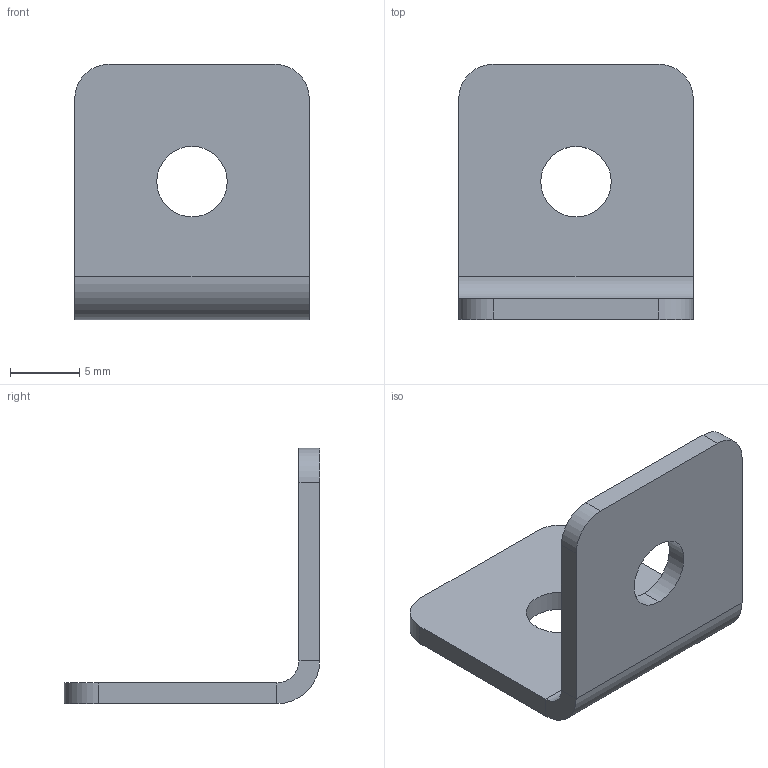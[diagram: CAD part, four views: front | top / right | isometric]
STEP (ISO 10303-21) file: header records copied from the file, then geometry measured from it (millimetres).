
FILE_DESCRIPTION (( 'STEP AP214' ), '1' );
FILE_NAME ('8001ñ (20õ20).STEP', '2015-03-29T05:36:01', ( '' ), ( '' ), 'SwSTEP 2.0', 'SolidWorks 2014', '' );
FILE_SCHEMA (( 'AUTOMOTIVE_DESIGN' ));
Length unit declared in the file: millimetre
Products named in the file (1): 8001ñ (20õ20)
Bounding box: 17 x 18.5 x 18.5 mm (x, y, z)
Volume: 810.2 mm3; surface area: 1276.4 mm2
Topology: 1 solids, 1 shells, 22 faces, 52 edges, 32 vertices
Faces by surface type: plane 12, cylinder 10
Entity records: 674 total; most frequent: DIRECTION 118, CARTESIAN_POINT 107, ORIENTED_EDGE 104, EDGE_CURVE 52, AXIS2_PLACEMENT_3D 43, LINE 32, VERTEX_POINT 32, VECTOR 32
